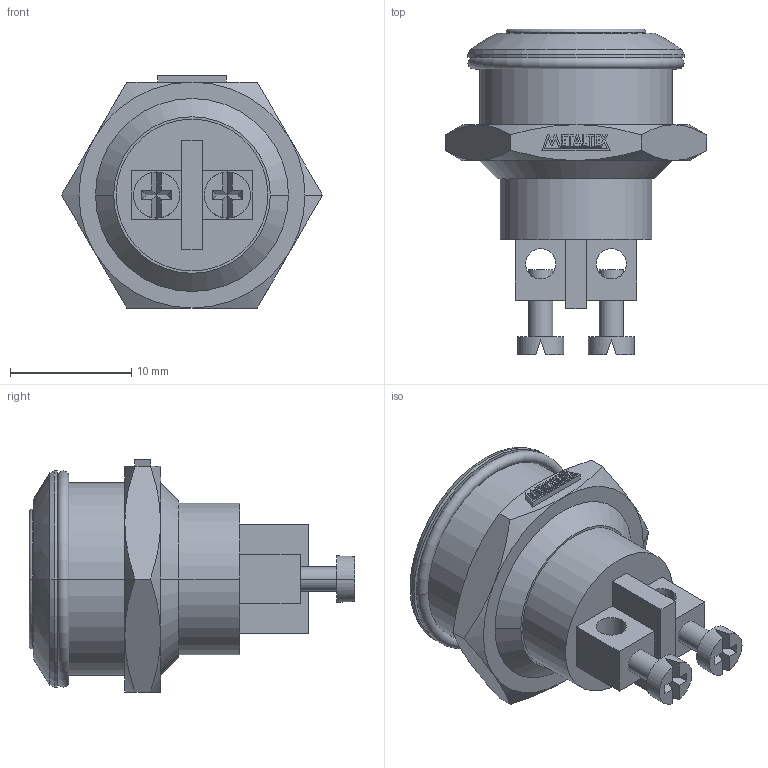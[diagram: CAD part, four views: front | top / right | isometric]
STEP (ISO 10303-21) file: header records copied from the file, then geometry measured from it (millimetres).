
FILE_DESCRIPTION (( 'STEP AP203' ), '1' );
FILE_NAME ('AV16FA.STEP', '2018-01-17T14:31:51', ( '' ), ( '' ), 'SwSTEP 2.0', 'SolidWorks 2012', '' );
FILE_SCHEMA (( 'CONFIG_CONTROL_DESIGN' ));
Length unit declared in the file: millimetre
Products named in the file (3): AV16FA; METALTEX 5,62
Assembly tree (2 placements, depth 2):
  AV16FA
    AV16FA
    METALTEX 5,62
Bounding box: 21.5 x 26.83 x 19.12 mm (x, y, z)
Volume: 3563.1 mm3; surface area: 2047.7 mm2
Topology: 8 solids, 8 shells, 201 faces, 484 edges, 312 vertices
Faces by surface type: plane 151, cylinder 26, cone 18, torus 4, sphere 2
Entity records: 6231 total; most frequent: CARTESIAN_POINT 1238, ORIENTED_EDGE 968, DIRECTION 944, EDGE_CURVE 484, LINE 364, VECTOR 364, VERTEX_POINT 312, AXIS2_PLACEMENT_3D 290
